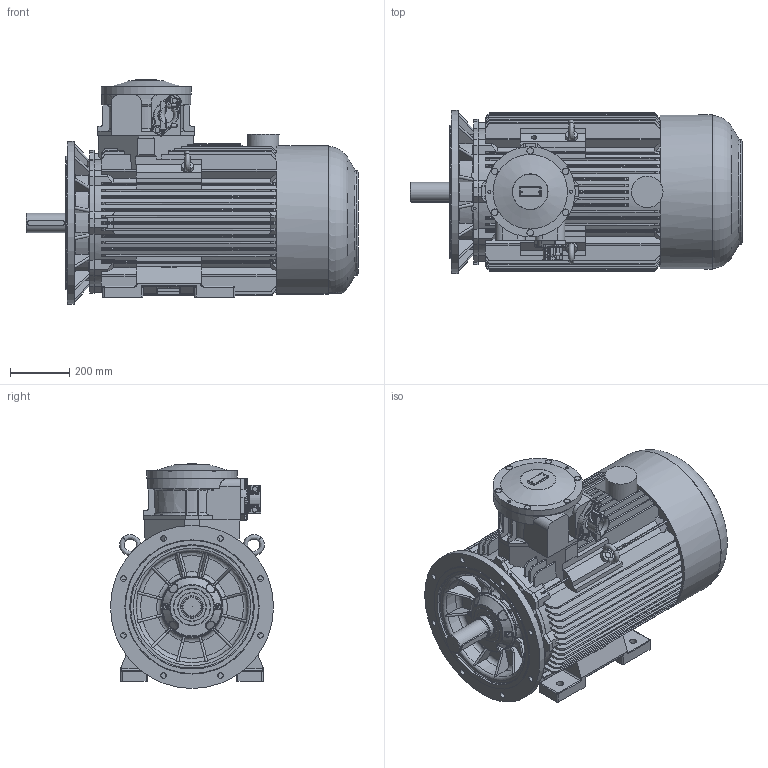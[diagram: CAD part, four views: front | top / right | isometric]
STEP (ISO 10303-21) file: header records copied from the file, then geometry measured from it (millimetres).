
FILE_DESCRIPTION(/* description */ ('Unknown'),/* implementation_level */ '2;1');
FILE_NAME(/* name */ 'cSTLe250M4-8 IE2-3',/* time_stamp */ '2021-12-13T10:36:21+01:00',/* author */ ('Unknown'),/* organization */ ('Unknown'),/* preprocessor_version */ 'ST-DEVELOPER v16.7',/* originating_system */ 'DEX',/* authorisation */ $);
FILE_SCHEMA (('AUTOMOTIVE_DESIGN {1 0 10303 214 3 1 1}'));
Products named in the file (1): cSTLe250M4-8 IE2-3
Bounding box: 1120 x 550 x 759 mm (x, y, z)
Volume: 187881906.8 mm3; surface area: 5624362.7 mm2
Topology: 2 solids, 17 shells, 2019 faces, 5461 edges, 3423 vertices
Faces by surface type: plane 830, cylinder 625, torus 210, cone 163, bspline 136, sphere 55
Full cylindrical faces by diameter (mm): 3.2 x2, 6.647 x2, 8.16 x4, 8.376 x4, 8.5 x2, 8.917 x1, 10 x6, 10.106 x2, 11 x4, 14.63 x3, 16.4 x2, 17.294 x5, 18.376 x1, 19 x8, 22 x6, 24 x4, 38.174 x2, 39.3 x1, 40.259 x1, 52 x2, 65 x2, 71.5 x1, 72 x1, 106 x1, 124.4 x1, 124.996 x1, 202 x1, 207.997 x1, 300.004 x1, 304.008 x1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
Entity records: 82493 total; most frequent: CARTESIAN_POINT 20071, ORIENTED_EDGE 10336, DIRECTION 9693, EDGE_CURVE 5168, AXIS2_PLACEMENT_3D 3557, VERTEX_POINT 3339, LINE 2579, VECTOR 2579
